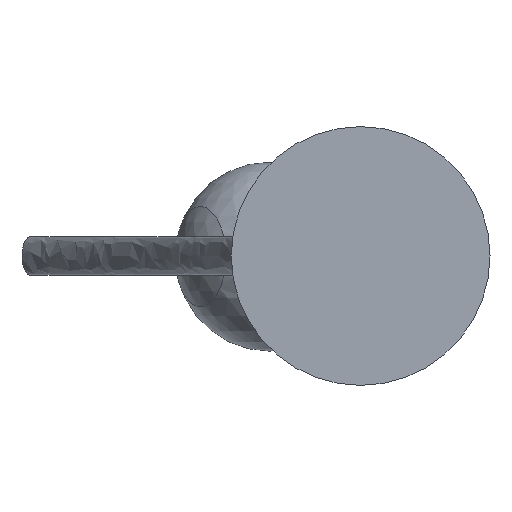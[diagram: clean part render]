
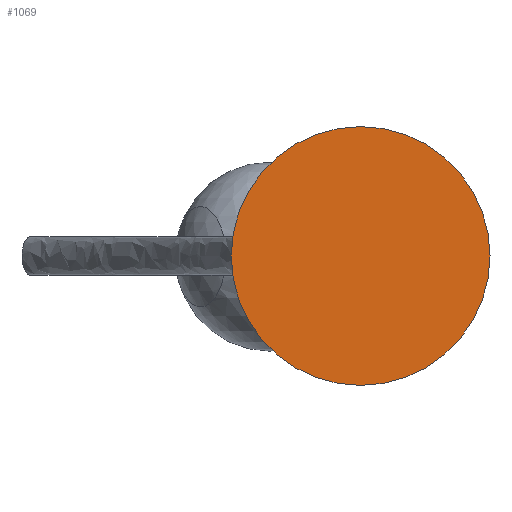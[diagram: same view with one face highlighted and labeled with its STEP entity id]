
A CAD part, front view. The second image highlights one B-rep face of the part: STEP entity #1069.
In plain terms, the highlighted planar face has unit normal (0, -1, 0).
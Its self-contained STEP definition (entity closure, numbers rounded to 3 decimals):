
#22 = CARTESIAN_POINT ( 'NONE',  ( 0., 0., 0. ) ) ;
#68 = ORIENTED_EDGE ( 'NONE', *, *, #758, .T. ) ;
#69 = AXIS2_PLACEMENT_3D ( 'NONE', #935, #446, #139 ) ;
#132 = CARTESIAN_POINT ( 'NONE',  ( -100., 0., 0. ) ) ;
#139 = DIRECTION ( 'NONE',  ( 1., 0., 0. ) ) ;
#155 = VERTEX_POINT ( 'NONE', #1170 ) ;
#168 = ORIENTED_EDGE ( 'NONE', *, *, #419, .T. ) ;
#355 = VERTEX_POINT ( 'NONE', #132 ) ;
#365 = CIRCLE ( 'NONE', #465, 100. ) ;
#390 = DIRECTION ( 'NONE',  ( 0., -1., 0. ) ) ;
#419 = EDGE_CURVE ( 'NONE', #355, #155, #365, .T. ) ;
#446 = DIRECTION ( 'NONE',  ( 0., -1., 0. ) ) ;
#461 = CARTESIAN_POINT ( 'NONE',  ( -125., 0., 125. ) ) ;
#465 = AXIS2_PLACEMENT_3D ( 'NONE', #22, #390, #700 ) ;
#620 = EDGE_LOOP ( 'NONE', ( #68, #168 ) ) ;
#700 = DIRECTION ( 'NONE',  ( 1., 0., 0. ) ) ;
#758 = EDGE_CURVE ( 'NONE', #155, #355, #984, .T. ) ;
#771 = PLANE ( 'NONE',  #1026 ) ;
#867 = FACE_OUTER_BOUND ( 'NONE', #620, .T. ) ;
#935 = CARTESIAN_POINT ( 'NONE',  ( 0., 0., 0. ) ) ;
#984 = CIRCLE ( 'NONE', #69, 100. ) ;
#1026 = AXIS2_PLACEMENT_3D ( 'NONE', #461, #1159, #1166 ) ;
#1069 = ADVANCED_FACE ( 'NONE', ( #867 ), #771, .T. ) ;
#1159 = DIRECTION ( 'NONE',  ( 0., -1., 0. ) ) ;
#1166 = DIRECTION ( 'NONE',  ( -1., 0., 0. ) ) ;
#1170 = CARTESIAN_POINT ( 'NONE',  ( 100., 0., 0. ) ) ;
